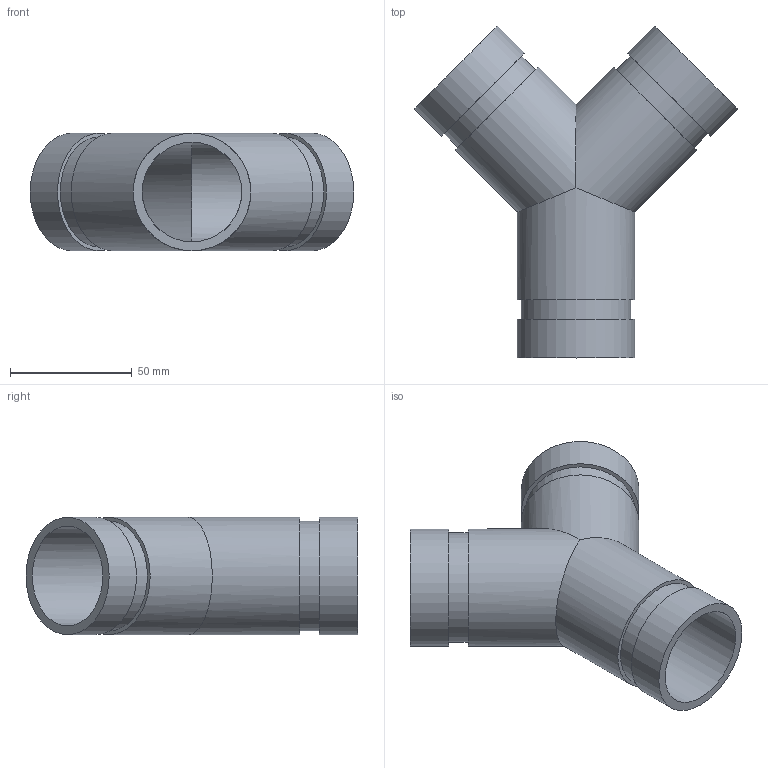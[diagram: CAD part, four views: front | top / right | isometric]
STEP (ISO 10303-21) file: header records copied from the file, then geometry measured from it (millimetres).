
FILE_DESCRIPTION(/* description */ ('This is default description.','CAx-IF Rec.Pracs.---Representation and Presentation of Product Manufacturing Information (PMI)---4.0---2014-10-13'),/* implementation_level */ '2;1');
FILE_NAME(/* name */ 'C:\Users\kkamble\AppData\Roaming\Autodesk\ApplicationPlugins\Back Up\Victaulic_IPS-Tee- Wye_ No 33 SWS (OGS)\Victaulic_IPS-Tee- Wye_ No 33 SWS (OGS)_1.5.stp',/* time_stamp */ '2020-09-16T22:07:51+06:00',/* author */ ('cgray'),/* organization */ ('Victaulic'),/* preprocessor_version */ 'ST-DEVELOPER v17.2',/* originating_system */ 'Autodesk Inventor 2019',/* authorisation */ '');
FILE_SCHEMA (('AP242_MANAGED_MODEL_BASED_3D_ENGINEERING_MIM_LF { 1 0 10303 442 1 1 4 }'));
Length unit declared in the file: inch
Products named in the file (1): 33 SWS-01.5
Bounding box: 132.91 x 136.3 x 48.26 mm (x, y, z)
Volume: 89117.7 mm3; surface area: 54081.8 mm2
Topology: 1 solids, 1 shells, 21 faces, 48 edges, 34 vertices
Faces by surface type: cylinder 12, plane 9
Full cylindrical faces by diameter (mm): 40.894 x3, 45.085 x3, 48.26 x6
Entity records: 787 total; most frequent: DIRECTION 154, CARTESIAN_POINT 121, ORIENTED_EDGE 96, AXIS2_PLACEMENT_3D 71, EDGE_CURVE 48, VERTEX_POINT 34, EDGE_LOOP 30, CIRCLE 26
